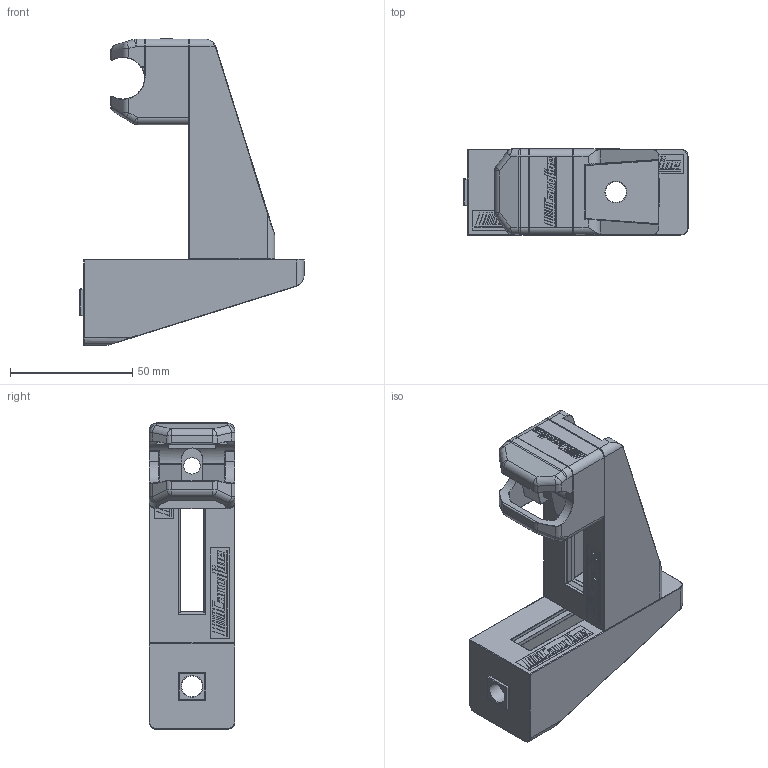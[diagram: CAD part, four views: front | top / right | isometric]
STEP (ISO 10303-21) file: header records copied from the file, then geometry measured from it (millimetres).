
FILE_DESCRIPTION(/* description */ (''),/* implementation_level */ '2;1');
FILE_NAME(/* name */ '\\carryline.intra\privat\users\mathias\Desktop\Tillfälliga filer\300-0800.stp',/* time_stamp */ '2018-11-30T07:56:49+01:00',/* author */ ('PL'),/* organization */ (''),/* preprocessor_version */ 'ST-DEVELOPER v17',/* originating_system */ 'Autodesk Inventor 2018',/* authorisation */ '');
FILE_SCHEMA (('AUTOMOTIVE_DESIGN { 1 0 10303 214 3 1 1 }'));
Length unit declared in the file: millimetre
Products named in the file (3): S830_300-0800; 300-1000; 300-2090
Assembly tree (3 placements, depth 2):
  S830_300-0800
    300-1000
    300-2090  x2
Bounding box: 91.5 x 35 x 125.1 mm (x, y, z)
Volume: 92543.9 mm3; surface area: 43499.1 mm2
Topology: 5 solids, 5 shells, 1282 faces, 3110 edges, 1840 vertices
Faces by surface type: plane 773, cylinder 286, bspline 94, sphere 68, torus 61
Full cylindrical faces by diameter (mm): 6.647 x1, 8.5 x2, 9 x1
Entity records: 26895 total; most frequent: CARTESIAN_POINT 6346, DIRECTION 4140, ORIENTED_EDGE 4084, EDGE_CURVE 2042, LINE 1444, VECTOR 1444, AXIS2_PLACEMENT_3D 1348, VERTEX_POINT 1235
